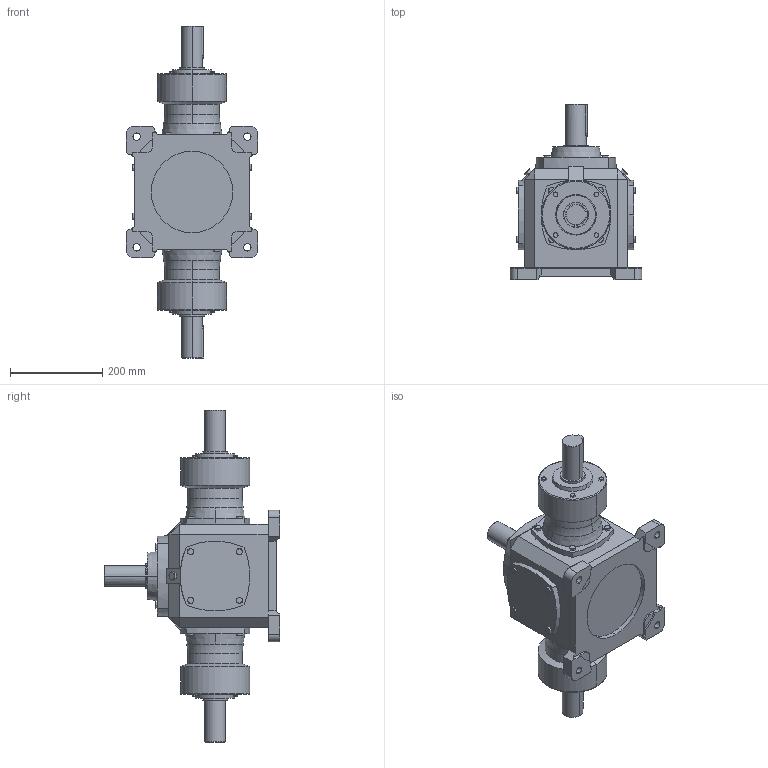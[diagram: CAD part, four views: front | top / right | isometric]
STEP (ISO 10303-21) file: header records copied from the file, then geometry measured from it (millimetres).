
FILE_DESCRIPTION (( 'STEP AP203' ), '1' );
FILE_NAME ('TC10-1-WSXH1-F1.step', '2018-07-12T07:21:13', ( 'IT Division' ), ( 'IT' ), 'SwSTEP 2.0', 'SolidWorks 2016', '' );
FILE_SCHEMA (( 'CONFIG_CONTROL_DESIGN' ));
Length unit declared in the file: millimetre
Products named in the file (1): TC10-1-WSXH1-F1
Bounding box: 285 x 380 x 720 mm (x, y, z)
Volume: 17874770.3 mm3; surface area: 694707.9 mm2
Topology: 3 solids, 3 shells, 670 faces, 1596 edges, 974 vertices
Faces by surface type: plane 329, cone 232, cylinder 97, torus 12
Entity records: 20406 total; most frequent: CARTESIAN_POINT 5376, ORIENTED_EDGE 3192, DIRECTION 2962, EDGE_CURVE 1596, AXIS2_PLACEMENT_3D 1092, VERTEX_POINT 974, VECTOR 778, LINE 778
